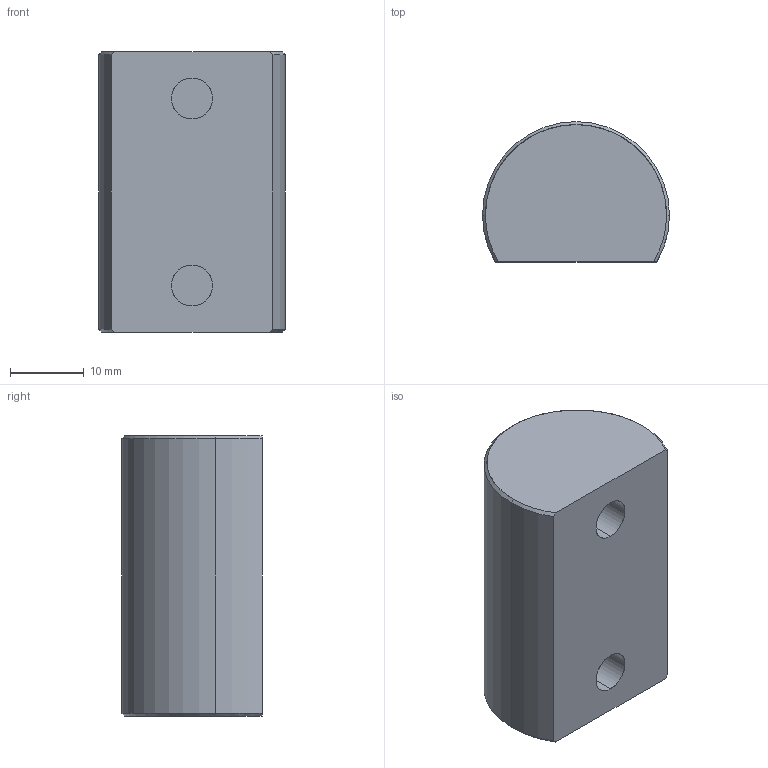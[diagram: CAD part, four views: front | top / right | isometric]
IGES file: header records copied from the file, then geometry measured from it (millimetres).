
Start section: SolidWorks IGES file using analytic representation for surfaces
Global section: file name: D:\Solid_parts\MECHeDESIGN\Bal-Tec\Catalog 105-A\Distribution\IGES\100-TC-BH.IGS; native system: SolidWorks 2005 by SolidWorks Corporation; preprocessor: SolidWorks 2005 by SolidWorks Corporation; author: rvillegas; date: 061205.185846; units: inch
Bounding box: 25.4 x 19.05 x 38.1 mm (x, y, z)
Surface area: 3848.3 mm2 (no closed solid volume)
Topology: 0 solids, 0 shells, 18 faces, 238 edges, 238 vertices
Faces by surface type: revolution 13, bspline 5
